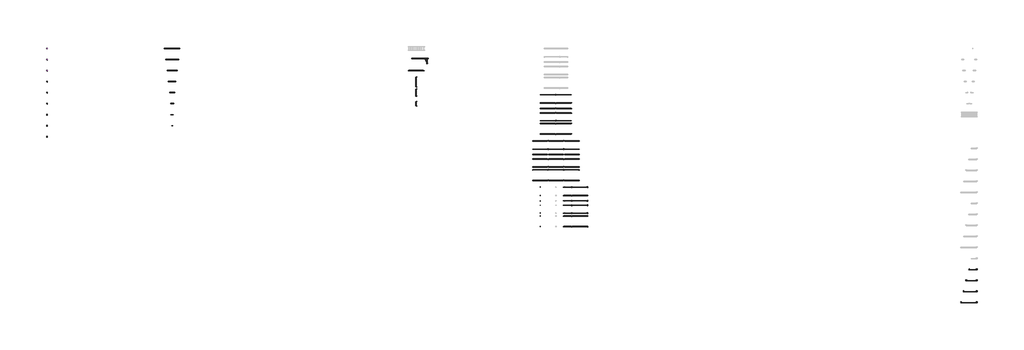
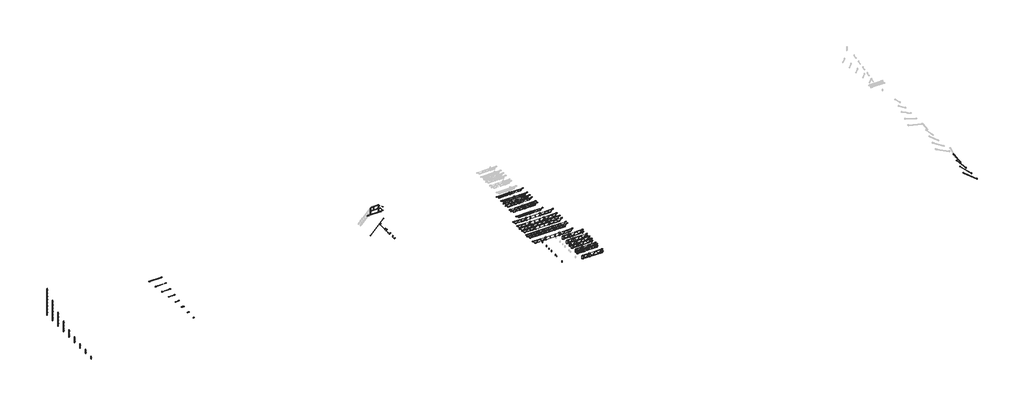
# One storey, part 1 of 2: 61 proxies.
"""IFC4 building model written with IfcOpenShell, lengths in millimetres."""

from ifc_helpers import new_model, si_unit, origin, place, context, project, spatial, transform, mapped, element, save
from components import generic_models_9ae7badf, generic_models_bc8bdfa8, generic_models_b39278bf, generic_models_16b3c78d, generic_models_86f9ce57, generic_models_1dade7e1, generic_models_76ee82b8, generic_models_0a93a7db, generic_models_1e0378dc, generic_models_099d6492, generic_models_34d79544, generic_models_03ab8a06, generic_models_fc53304d, generic_models_4928589d, generic_models_6867d717, generic_models_185ff827, generic_models_e073ca39, generic_models_849db72a, generic_models_a82b83a8, generic_models_1110d281, generic_models_9ba98fb6, generic_models_5db8f6cd, generic_models_267648cc, generic_models_ffb8613f, generic_models_e28a5294, generic_models_1a670a13, generic_models_91e35777, generic_models_8123577b, generic_models_a14d9769, generic_models_4baf35b3, generic_models_fa30573d, generic_models_defd56ff, generic_models_d6438b01, generic_models_5d8191d4, generic_models_ce839660, proxy_1200_2f35732d

model = new_model("IFC4")

# Units and contexts
model_context = context("Model", 3, world=origin())
ifc_project = project(units=[si_unit("LENGTHUNIT", "METRE", prefix="MILLI")], contexts=[model_context])

# Site, building, storey
site = spatial("IfcSite", under=ifc_project)
building = spatial("IfcBuilding", under=site)
storey = spatial("IfcBuildingStorey", under=building, Name="レベル 1", Elevation=500.0)

# Proxies
placement = place(None, origin())
generic_models_shape = generic_models_9ae7badf(model_context)
element("IfcBuildingElementProxy", 1, Name="AK_アルバトロスＡＫ支柱L=3600_軽 : AK_アルバトロスＡＫ支柱L=3600", ObjectType="AK_アルバトロスＡＫ支柱L=3600_軽 : AK_アルバトロスＡＫ支柱L=3600", at=placement, inside=storey, context=model_context, shape_type="MappedRepresentation", body=[
    mapped(generic_models_shape, transform((6859.9075357, 25132.706542, 500.0), x_axis=(1.0, 0.0, 0.0), y_axis=(0.0, 1.0, 0.0), z_axis=(0.0, 0.0, 1.0))),
])
generic_models_2_shape = generic_models_bc8bdfa8(model_context)
element("IfcBuildingElementProxy", 2, Name="AK_アルバトロスＡＫ連結ピン_軽 : AK_アルバトロスＡＫ連結ピン", ObjectType="AK_アルバトロスＡＫ連結ピン_軽 : AK_アルバトロスＡＫ連結ピン", at=placement, inside=storey, context=model_context, shape_type="MappedRepresentation", body=[
    mapped(generic_models_2_shape, transform((6859.9075357, 25132.706542, 4075.0), x_axis=(1.0, 0.0, 0.0), y_axis=(0.0, 1.0, 0.0), z_axis=(0.0, 0.0, 1.0))),
])
element("IfcBuildingElementProxy", 3, Name="AK_アルバトロスＡＫ連結ピン_軽 : AK_アルバトロスＡＫ連結ピン", ObjectType="AK_アルバトロスＡＫ連結ピン_軽 : AK_アルバトロスＡＫ連結ピン", at=placement, inside=storey, context=model_context, shape_type="MappedRepresentation", body=[
    mapped(generic_models_2_shape, transform((6859.9075357, 23872.706542, 3175.0), x_axis=(1.0, 0.0, 0.0), y_axis=(0.0, 1.0, 0.0), z_axis=(0.0, 0.0, 1.0))),
])
generic_models_3_shape = generic_models_b39278bf(model_context)
element("IfcBuildingElementProxy", 4, Name="AK_アルバトロスＡＫ支柱L=2700_軽 : AK_アルバトロスＡＫ支柱L=2700", ObjectType="AK_アルバトロスＡＫ支柱L=2700_軽 : AK_アルバトロスＡＫ支柱L=2700", at=placement, inside=storey, context=model_context, shape_type="MappedRepresentation", body=[
    mapped(generic_models_3_shape, transform((6859.9075357, 23872.706542, 500.0), x_axis=(1.0, 0.0, 0.0), y_axis=(0.0, 1.0, 0.0), z_axis=(0.0, 0.0, 1.0))),
])
generic_models_4_shape = generic_models_16b3c78d(model_context)
element("IfcBuildingElementProxy", 5, Name="AK_アルバトロスＡＫ支柱L=1800_軽 : AK_アルバトロスＡＫ支柱L=1800", ObjectType="AK_アルバトロスＡＫ支柱L=1800_軽 : AK_アルバトロスＡＫ支柱L=1800", at=placement, inside=storey, context=model_context, shape_type="MappedRepresentation", body=[
    mapped(generic_models_4_shape, transform((6859.9075357, 22612.706542, 500.0), x_axis=(1.0, 0.0, 0.0), y_axis=(0.0, 1.0, 0.0), z_axis=(0.0, 0.0, 1.0))),
])
element("IfcBuildingElementProxy", 6, Name="AK_アルバトロスＡＫ連結ピン_軽 : AK_アルバトロスＡＫ連結ピン", ObjectType="AK_アルバトロスＡＫ連結ピン_軽 : AK_アルバトロスＡＫ連結ピン", at=placement, inside=storey, context=model_context, shape_type="MappedRepresentation", body=[
    mapped(generic_models_2_shape, transform((6859.9075357, 22612.706542, 2275.0), x_axis=(1.0, 0.0, 0.0), y_axis=(0.0, 1.0, 0.0), z_axis=(0.0, 0.0, 1.0))),
])
element("IfcBuildingElementProxy", 7, Name="AK_アルバトロスＡＫ連結ピン_軽 : AK_アルバトロスＡＫ連結ピン", ObjectType="AK_アルバトロスＡＫ連結ピン_軽 : AK_アルバトロスＡＫ連結ピン", at=placement, inside=storey, context=model_context, shape_type="MappedRepresentation", body=[
    mapped(generic_models_2_shape, transform((6859.9075357, 21352.706542, 1825.0), x_axis=(1.0, 0.0, 0.0), y_axis=(0.0, 1.0, 0.0), z_axis=(0.0, 0.0, 1.0))),
])
generic_models_5_shape = generic_models_86f9ce57(model_context)
element("IfcBuildingElementProxy", 8, Name="AK_アルバトロスＡＫ支柱L=1350_軽 : AK_アルバトロスＡＫ支柱L=1350", ObjectType="AK_アルバトロスＡＫ支柱L=1350_軽 : AK_アルバトロスＡＫ支柱L=1350", at=placement, inside=storey, context=model_context, shape_type="MappedRepresentation", body=[
    mapped(generic_models_5_shape, transform((6859.9075357, 21352.706542, 500.0), x_axis=(1.0, 0.0, 0.0), y_axis=(0.0, 1.0, 0.0), z_axis=(0.0, 0.0, 1.0))),
])
generic_models_6_shape = generic_models_1dade7e1(model_context)
element("IfcBuildingElementProxy", 9, Name="AK_アルバトロスＡＫ支柱L=900_軽 : AK_アルバトロスＡＫ支柱L=900", ObjectType="AK_アルバトロスＡＫ支柱L=900_軽 : AK_アルバトロスＡＫ支柱L=900", at=placement, inside=storey, context=model_context, shape_type="MappedRepresentation", body=[
    mapped(generic_models_6_shape, transform((6859.9075357, 20092.706542, 500.0), x_axis=(1.0, 0.0, 0.0), y_axis=(0.0, 1.0, 0.0), z_axis=(0.0, 0.0, 1.0))),
])
element("IfcBuildingElementProxy", 10, Name="AK_アルバトロスＡＫ連結ピン_軽 : AK_アルバトロスＡＫ連結ピン", ObjectType="AK_アルバトロスＡＫ連結ピン_軽 : AK_アルバトロスＡＫ連結ピン", at=placement, inside=storey, context=model_context, shape_type="MappedRepresentation", body=[
    mapped(generic_models_2_shape, transform((6859.9075357, 20092.706542, 1375.0), x_axis=(1.0, 0.0, 0.0), y_axis=(0.0, 1.0, 0.0), z_axis=(0.0, 0.0, 1.0))),
])
element("IfcBuildingElementProxy", 11, Name="AK_アルバトロスＡＫ連結ピン_軽 : AK_アルバトロスＡＫ連結ピン", ObjectType="AK_アルバトロスＡＫ連結ピン_軽 : AK_アルバトロスＡＫ連結ピン", at=placement, inside=storey, context=model_context, shape_type="MappedRepresentation", body=[
    mapped(generic_models_2_shape, transform((6859.9075357, 18832.706542, 1150.0), x_axis=(1.0, 0.0, 0.0), y_axis=(0.0, 1.0, 0.0), z_axis=(0.0, 0.0, 1.0))),
])
generic_models_7_shape = generic_models_76ee82b8(model_context)
element("IfcBuildingElementProxy", 12, Name="AK_アルバトロスＡＫ支柱L=675_軽 : AK_アルバトロスＡＫ支柱L=675", ObjectType="AK_アルバトロスＡＫ支柱L=675_軽 : AK_アルバトロスＡＫ支柱L=675", at=placement, inside=storey, context=model_context, shape_type="MappedRepresentation", body=[
    mapped(generic_models_7_shape, transform((6859.9075357, 18832.706542, 500.0), x_axis=(1.0, 0.0, 0.0), y_axis=(0.0, 1.0, 0.0), z_axis=(0.0, 0.0, 1.0))),
])
generic_models_8_shape = generic_models_0a93a7db(model_context)
element("IfcBuildingElementProxy", 13, Name="AK_アルバトロスＡＫ支柱L=450_軽 : AK_アルバトロスＡＫ支柱L=450", ObjectType="AK_アルバトロスＡＫ支柱L=450_軽 : AK_アルバトロスＡＫ支柱L=450", at=placement, inside=storey, context=model_context, shape_type="MappedRepresentation", body=[
    mapped(generic_models_8_shape, transform((6859.9075357, 17572.706542, 500.0), x_axis=(1.0, 0.0, 0.0), y_axis=(0.0, 1.0, 0.0), z_axis=(0.0, 0.0, 1.0))),
])
generic_models_9_shape = generic_models_1e0378dc(model_context)
element("IfcBuildingElementProxy", 14, Name="AK_アルバトロスＡＫ連結ピン_軽 : AK_アルバトロスＡＫ連結ピン", ObjectType="AK_アルバトロスＡＫ連結ピン_軽 : AK_アルバトロスＡＫ連結ピン", at=placement, inside=storey, context=model_context, shape_type="MappedRepresentation", body=[
    mapped(generic_models_9_shape, transform((6859.9075357, 17572.706542, 925.0), x_axis=(1.0, 0.0, 0.0), y_axis=(0.0, 1.0, 0.0), z_axis=(0.0, 0.0, 1.0))),
])
generic_models_10_shape = generic_models_099d6492(model_context)
element("IfcBuildingElementProxy", 15, Name="AK_アルバトロスＡＫ布材L=1800_軽 : AK_アルバトロスＡＫ布材L=1800_軽", ObjectType="AK_アルバトロスＡＫ布材L=1800_軽 : AK_アルバトロスＡＫ布材L=1800_軽", at=placement, inside=storey, context=model_context, shape_type="MappedRepresentation", body=[
    mapped(generic_models_10_shape, transform((20254.9075357, 25132.706542, 500.0), x_axis=(1.0, 0.0, 0.0), y_axis=(0.0, 1.0, 0.0), z_axis=(0.0, 0.0, 1.0))),
])
generic_models_11_shape = generic_models_34d79544(model_context)
element("IfcBuildingElementProxy", 16, Name="AK_アルバトロスＡＫ布材L=1500_軽 : AK_アルバトロスＡＫ布材L=1500_軽", ObjectType="AK_アルバトロスＡＫ布材L=1500_軽 : AK_アルバトロスＡＫ布材L=1500_軽", at=placement, inside=storey, context=model_context, shape_type="MappedRepresentation", body=[
    mapped(generic_models_11_shape, transform((20404.9075383, 23872.706542, 500.0), x_axis=(1.0, 0.0, 0.0), y_axis=(0.0, 1.0, 0.0), z_axis=(0.0, 0.0, 1.0))),
])
generic_models_12_shape = generic_models_03ab8a06(model_context)
element("IfcBuildingElementProxy", 17, Name="AK_アルバトロスＡＫ布材L=1200_軽 : AK_アルバトロスＡＫ布材L=1200_軽", ObjectType="AK_アルバトロスＡＫ布材L=1200_軽 : AK_アルバトロスＡＫ布材L=1200_軽", at=placement, inside=storey, context=model_context, shape_type="MappedRepresentation", body=[
    mapped(generic_models_12_shape, transform((20554.9075159, 22612.706542, 500.0), x_axis=(1.0, 0.0, 0.0), y_axis=(0.0, 1.0, 0.0), z_axis=(0.0, 0.0, 1.0))),
])
generic_models_13_shape = generic_models_fc53304d(model_context)
element("IfcBuildingElementProxy", 18, Name="AK_アルバトロスＡＫ布材L=900_軽 : AK_アルバトロスＡＫ布材L=900_軽", ObjectType="AK_アルバトロスＡＫ布材L=900_軽 : AK_アルバトロスＡＫ布材L=900_軽", at=placement, inside=storey, context=model_context, shape_type="MappedRepresentation", body=[
    mapped(generic_models_13_shape, transform((20704.9075357, 21352.706542, 500.0), x_axis=(1.0, 0.0, 0.0), y_axis=(0.0, 1.0, 0.0), z_axis=(0.0, 0.0, 1.0))),
])
generic_models_14_shape = generic_models_4928589d(model_context)
element("IfcBuildingElementProxy", 19, Name="AK_アルバトロスＡＫ布材L=600_軽 : AK_アルバトロスＡＫ布材L=600_軽", ObjectType="AK_アルバトロスＡＫ布材L=600_軽 : AK_アルバトロスＡＫ布材L=600_軽", at=placement, inside=storey, context=model_context, shape_type="MappedRepresentation", body=[
    mapped(generic_models_14_shape, transform((20854.9075159, 20092.706542, 500.0), x_axis=(1.0, 0.0, 0.0), y_axis=(0.0, 1.0, 0.0), z_axis=(0.0, 0.0, 1.0))),
])
generic_models_15_shape = generic_models_6867d717(model_context)
element("IfcBuildingElementProxy", 20, Name="AK_アルバトロスＡＫ布材L=360_軽 : AK_アルバトロスＡＫ布材L=360_軽", ObjectType="AK_アルバトロスＡＫ布材L=360_軽 : AK_アルバトロスＡＫ布材L=360_軽", at=placement, inside=storey, context=model_context, shape_type="MappedRepresentation", body=[
    mapped(generic_models_15_shape, transform((20974.9075357, 18832.706542, 500.0), x_axis=(1.0, 0.0, 0.0), y_axis=(0.0, 1.0, 0.0), z_axis=(0.0, 0.0, 1.0))),
])
generic_models_16_shape = generic_models_185ff827(model_context)
element("IfcBuildingElementProxy", 21, Name="AK_アルバトロスＡＫ布材L=300_軽 : AK_アルバトロスＡＫ布材L=300_軽", ObjectType="AK_アルバトロスＡＫ布材L=300_軽 : AK_アルバトロスＡＫ布材L=300_軽", at=placement, inside=storey, context=model_context, shape_type="MappedRepresentation", body=[
    mapped(generic_models_16_shape, transform((21004.9075107, 17572.706542, 500.0), x_axis=(1.0, 0.0, 0.0), y_axis=(0.0, 1.0, 0.0), z_axis=(0.0, 0.0, 1.0))),
])
generic_models_17_shape = generic_models_e073ca39(model_context)
element("IfcBuildingElementProxy", 22, Name="AK_アルバトロスＡＫつなぎ材_軽 : AK_アルバトロスＡＫつなぎ材_軽", ObjectType="AK_アルバトロスＡＫつなぎ材_軽 : AK_アルバトロスＡＫつなぎ材_軽", at=placement, inside=storey, context=model_context, shape_type="MappedRepresentation", body=[
    mapped(generic_models_17_shape, transform((21073.4075306, 16312.706542, 500.0), x_axis=(1.0, 0.0, 0.0), y_axis=(0.0, 1.0, 0.0), z_axis=(0.0, 0.0, 1.0))),
])
generic_models_18_shape = generic_models_849db72a(model_context)
element("IfcBuildingElementProxy", 23, Name="アルバトロスＡＫ階段手摺_軽 : アルバトロスＡＫ階段手摺_軽", ObjectType="アルバトロスＡＫ階段手摺_軽 : アルバトロスＡＫ階段手摺_軽", at=placement, inside=storey, context=model_context, shape_type="MappedRepresentation", body=[
    mapped(generic_models_18_shape, transform((49937.3354172, 22612.706542, 500.0), x_axis=(1.0, 0.0, 0.0), y_axis=(0.0, 1.0, 0.0), z_axis=(0.0, 0.0, 1.0))),
])
generic_models_19_shape = generic_models_a82b83a8(model_context)
element("IfcBuildingElementProxy", 24, Name="アルバトロスＡＫ階段受け_軽 : アルバトロスＡＫ階段受けL=1200", ObjectType="アルバトロスＡＫ階段受け_軽 : アルバトロスＡＫ階段受けL=1200", at=placement, inside=storey, context=model_context, shape_type="MappedRepresentation", body=[
    mapped(generic_models_19_shape, transform((49095.5408691, 21906.4841611, 500.0), x_axis=(0.0, -1.0, 0.0), y_axis=(1.0, 0.0, 0.0), z_axis=(0.0, 0.0, 1.0))),
])
generic_models_20_shape = generic_models_1110d281(model_context)
element("IfcBuildingElementProxy", 25, Name="アルバトロスＡＫ階段受け_軽 : アルバトロスＡＫ階段受けL=900", ObjectType="アルバトロスＡＫ階段受け_軽 : アルバトロスＡＫ階段受けL=900", at=placement, inside=storey, context=model_context, shape_type="MappedRepresentation", body=[
    mapped(generic_models_20_shape, transform((49095.5408691, 20542.706542, 500.0), x_axis=(0.0, -1.0, 0.0), y_axis=(1.0, 0.0, 0.0), z_axis=(0.0, 0.0, 1.0))),
])
generic_models_21_shape = generic_models_9ba98fb6(model_context)
element("IfcBuildingElementProxy", 26, Name="アルバトロスＡＫ階段受け_軽 : アルバトロスＡＫ階段受けL=600", ObjectType="アルバトロスＡＫ階段受け_軽 : アルバトロスＡＫ階段受けL=600", at=placement, inside=storey, context=model_context, shape_type="MappedRepresentation", body=[
    mapped(generic_models_21_shape, transform((49095.5408691, 19132.706542, 500.0), x_axis=(0.0, -1.0, 0.0), y_axis=(1.0, 0.0, 0.0), z_axis=(0.0, 0.0, 1.0))),
])
generic_models_22_shape = generic_models_5db8f6cd(model_context)
element("IfcBuildingElementProxy", 27, Name="AK_アルバトロスＡＫ根がらみ支柱L=225_軽 : AK_アルバトロスＡＫ根がらみ支柱L=225_軽", ObjectType="AK_アルバトロスＡＫ根がらみ支柱L=225_軽 : AK_アルバトロスＡＫ根がらみ支柱L=225_軽", at=placement, inside=storey, context=model_context, shape_type="MappedRepresentation", body=[
    mapped(generic_models_22_shape, transform((6859.9075357, 15052.706542, 500.0), x_axis=(1.0, 0.0, 0.0), y_axis=(0.0, 1.0, 0.0), z_axis=(0.0, 0.0, 1.0))),
])
generic_models_23_shape = generic_models_267648cc(model_context)
element("IfcBuildingElementProxy", 28, Name="AK_アルバトロスＡＫ根がらみ支柱L=450（大和式ピン）_軽 : AK_アルバトロスＡＫ根がらみ支柱L=450（大和式ピン）_軽", ObjectType="AK_アルバトロスＡＫ根がらみ支柱L=450（大和式ピン）_軽 : AK_アルバトロスＡＫ根がらみ支柱L=450（大和式ピン）_軽", at=placement, inside=storey, context=model_context, shape_type="MappedRepresentation", body=[
    mapped(generic_models_23_shape, transform((6859.9075357, 16312.706542, 500.0), x_axis=(1.0, 0.0, 0.0), y_axis=(0.0, 1.0, 0.0), z_axis=(0.0, 0.0, 1.0))),
])
generic_models_24_shape = generic_models_ffb8613f(model_context)
element("IfcBuildingElementProxy", 29, Name="アルバトロスAK2スパンはりわく_軽 : アルバトロスAK2スパンはりわく_軽", ObjectType="アルバトロスAK2スパンはりわく_軽 : アルバトロスAK2スパンはりわく_軽", at=placement, inside=storey, context=model_context, shape_type="MappedRepresentation", body=[
    mapped(generic_models_24_shape, transform((63176.3356425, 19852.706542, 500.0), x_axis=(1.0, 0.0, 0.0), y_axis=(0.0, 1.0, 0.0), z_axis=(0.0, 0.0, 1.0))),
])
generic_models_25_shape = generic_models_e28a5294(model_context)
element("IfcBuildingElementProxy", 30, Name="アルバトロスAK3スパンはりわく_軽 : アルバトロスAK3スパンはりわく_軽", ObjectType="アルバトロスAK3スパンはりわく_軽 : アルバトロスAK3スパンはりわく_軽", at=placement, inside=storey, context=model_context, shape_type="MappedRepresentation", body=[
    mapped(generic_models_25_shape, transform((62261.8356425, 14572.706542, 500.0), x_axis=(1.0, 0.0, 0.0), y_axis=(0.0, 1.0, 0.0), z_axis=(0.0, 0.0, 1.0))),
])
generic_models_26_shape = generic_models_1a670a13(model_context)
element("IfcBuildingElementProxy", 31, Name="アルバトロスAK4スパン梁枠短ピン付_軽 : アルバトロスAK4スパン梁枠短ピン付_軽", ObjectType="アルバトロスAK4スパン梁枠短ピン付_軽 : アルバトロスAK4スパン梁枠短ピン付_軽", at=placement, inside=storey, context=model_context, shape_type="MappedRepresentation", body=[
    mapped(generic_models_26_shape, transform((61328.3356425, 7732.706542, 500.0), x_axis=(1.0, 0.0, 0.0), y_axis=(0.0, 1.0, 0.0), z_axis=(0.0, 0.0, 1.0))),
])
element("IfcBuildingElementProxy", 32, Name="アルバトロスAK4スパン梁枠短ピン付_軽 : アルバトロスAK4スパン梁枠短ピン付_軽", ObjectType="アルバトロスAK4スパン梁枠短ピン付_軽 : アルバトロスAK4スパン梁枠短ピン付_軽", at=placement, inside=storey, context=model_context, shape_type="MappedRepresentation", body=[
    mapped(generic_models_26_shape, transform((61328.3356425, 6322.706542, 500.0), x_axis=(1.0, 0.0, 0.0), y_axis=(0.0, 1.0, 0.0), z_axis=(0.0, 0.0, 1.0))),
])
element("IfcBuildingElementProxy", 33, Name="アルバトロスAK4スパン梁枠短ピン付_軽 : アルバトロスAK4スパン梁枠短ピン付_軽", ObjectType="アルバトロスAK4スパン梁枠短ピン付_軽 : アルバトロスAK4スパン梁枠短ピン付_軽", at=placement, inside=storey, context=model_context, shape_type="MappedRepresentation", body=[
    mapped(generic_models_26_shape, transform((61328.3356425, 4792.706542, 500.0), x_axis=(1.0, 0.0, 0.0), y_axis=(0.0, 1.0, 0.0), z_axis=(0.0, 0.0, 1.0))),
])
element("IfcBuildingElementProxy", 34, Name="アルバトロスAK4スパン梁枠短ピン付_軽 : アルバトロスAK4スパン梁枠短ピン付_軽", ObjectType="アルバトロスAK4スパン梁枠短ピン付_軽 : アルバトロスAK4スパン梁枠短ピン付_軽", at=placement, inside=storey, context=model_context, shape_type="MappedRepresentation", body=[
    mapped(generic_models_26_shape, transform((61328.3356425, 9292.706542, 500.0), x_axis=(1.0, 0.0, 0.0), y_axis=(0.0, 1.0, 0.0), z_axis=(0.0, 0.0, 1.0))),
])
generic_models_27_shape = generic_models_91e35777(model_context)
element("IfcBuildingElementProxy", 35, Name="AK_アルバトロスAK伸縮斜材 : H1800×L1200", ObjectType="AK_アルバトロスAK伸縮斜材 : H1800×L1200", at=placement, inside=storey, context=model_context, shape_type="MappedRepresentation", body=[
    mapped(generic_models_27_shape, transform((113074.6155155, -1397.293458, 0.0), x_axis=(1.0, 0.0, 0.0), y_axis=(0.0, 1.0, 0.0), z_axis=(0.0, 0.0, 1.0))),
])
generic_models_28_shape = generic_models_8123577b(model_context)
element("IfcBuildingElementProxy", 36, Name="AK_アルバトロスAK伸縮斜材 : H1800×L1500", ObjectType="AK_アルバトロスAK伸縮斜材 : H1800×L1500", at=placement, inside=storey, context=model_context, shape_type="MappedRepresentation", body=[
    mapped(generic_models_28_shape, transform((113074.6155155, -2657.293458, 0.0), x_axis=(1.0, 0.0, 0.0), y_axis=(0.0, 1.0, 0.0), z_axis=(0.0, 0.0, 1.0))),
])
generic_models_29_shape = generic_models_a14d9769(model_context)
element("IfcBuildingElementProxy", 37, Name="AK_アルバトロスAK伸縮斜材 : H1800×L1800", ObjectType="AK_アルバトロスAK伸縮斜材 : H1800×L1800", at=placement, inside=storey, context=model_context, shape_type="MappedRepresentation", body=[
    mapped(generic_models_29_shape, transform((113074.6155155, -3917.293458, 0.0), x_axis=(1.0, 0.0, 0.0), y_axis=(0.0, 1.0, 0.0), z_axis=(0.0, 0.0, 1.0))),
])
generic_models_30_shape = generic_models_4baf35b3(model_context)
element("IfcBuildingElementProxy", 38, Name="AK_アルバトロスAK伸縮斜材 : H1800×L0900", ObjectType="AK_アルバトロスAK伸縮斜材 : H1800×L0900", at=placement, inside=storey, context=model_context, shape_type="MappedRepresentation", body=[
    mapped(generic_models_30_shape, transform((113074.6155155, -137.293458, 0.0), x_axis=(1.0, 0.0, 0.0), y_axis=(0.0, 1.0, 0.0), z_axis=(0.0, 0.0, 1.0))),
])
element("IfcBuildingElementProxy", 39, Name="アルバトロスAK2スパンはりわく_軽 : アルバトロスAK2スパンはりわく_軽", ObjectType="アルバトロスAK2スパンはりわく_軽 : アルバトロスAK2スパンはりわく_軽", at=placement, inside=storey, context=model_context, shape_type="MappedRepresentation", body=[
    mapped(generic_models_24_shape, transform((63176.3356425, 18292.706542, 500.0), x_axis=(1.0, 0.0, 0.0), y_axis=(0.0, 1.0, 0.0), z_axis=(0.0, 0.0, 1.0))),
])
element("IfcBuildingElementProxy", 40, Name="アルバトロスAK2スパンはりわく_軽 : アルバトロスAK2スパンはりわく_軽", ObjectType="アルバトロスAK2スパンはりわく_軽 : アルバトロスAK2スパンはりわく_軽", at=placement, inside=storey, context=model_context, shape_type="MappedRepresentation", body=[
    mapped(generic_models_24_shape, transform((63176.3356425, 16882.706542, 500.0), x_axis=(1.0, 0.0, 0.0), y_axis=(0.0, 1.0, 0.0), z_axis=(0.0, 0.0, 1.0))),
])
element("IfcBuildingElementProxy", 41, Name="アルバトロスAK2スパンはりわく_軽 : アルバトロスAK2スパンはりわく_軽", ObjectType="アルバトロスAK2スパンはりわく_軽 : アルバトロスAK2スパンはりわく_軽", at=placement, inside=storey, context=model_context, shape_type="MappedRepresentation", body=[
    mapped(generic_models_24_shape, transform((63176.3356425, 15352.706542, 500.0), x_axis=(1.0, 0.0, 0.0), y_axis=(0.0, 1.0, 0.0), z_axis=(0.0, 0.0, 1.0))),
])
generic_models_31_shape = generic_models_fa30573d(model_context)
element("IfcBuildingElementProxy", 42, Name="アルバトロスAK2スパンはりわく_軽 : アルバトロスAK2スパンはりわく_軽", ObjectType="アルバトロスAK2スパンはりわく_軽 : アルバトロスAK2スパンはりわく_軽", at=placement, inside=storey, context=model_context, shape_type="MappedRepresentation", body=[
    mapped(generic_models_31_shape, transform((63176.3356425, 18892.706542, 500.0), x_axis=(1.0, 0.0, 0.0), y_axis=(0.0, 1.0, 0.0), z_axis=(0.0, 0.0, 1.0))),
])
element("IfcBuildingElementProxy", 43, Name="アルバトロスAK2スパンはりわく_軽 : アルバトロスAK2スパンはりわく_軽", ObjectType="アルバトロスAK2スパンはりわく_軽 : アルバトロスAK2スパンはりわく_軽", at=placement, inside=storey, context=model_context, shape_type="MappedRepresentation", body=[
    mapped(generic_models_31_shape, transform((63176.3356425, 17782.706542, 500.0), x_axis=(1.0, 0.0, 0.0), y_axis=(0.0, 1.0, 0.0), z_axis=(0.0, 0.0, 1.0))),
])
element("IfcBuildingElementProxy", 44, Name="アルバトロスAK2スパンはりわく_軽 : アルバトロスAK2スパンはりわく_軽", ObjectType="アルバトロスAK2スパンはりわく_軽 : アルバトロスAK2スパンはりわく_軽", at=placement, inside=storey, context=model_context, shape_type="MappedRepresentation", body=[
    mapped(generic_models_31_shape, transform((63176.3356425, 16552.706542, 500.0), x_axis=(1.0, 0.0, 0.0), y_axis=(0.0, 1.0, 0.0), z_axis=(0.0, 0.0, 1.0))),
])
element("IfcBuildingElementProxy", 45, Name="アルバトロスAK3スパンはりわく_軽 : アルバトロスAK3スパンはりわく_軽", ObjectType="アルバトロスAK3スパンはりわく_軽 : アルバトロスAK3スパンはりわく_軽", at=placement, inside=storey, context=model_context, shape_type="MappedRepresentation", body=[
    mapped(generic_models_25_shape, transform((62261.8356425, 13028.206542, 500.0), x_axis=(1.0, 0.0, 0.0), y_axis=(0.0, 1.0, 0.0), z_axis=(0.0, 0.0, 1.0))),
])
element("IfcBuildingElementProxy", 46, Name="アルバトロスAK3スパンはりわく_軽 : アルバトロスAK3スパンはりわく_軽", ObjectType="アルバトロスAK3スパンはりわく_軽 : アルバトロスAK3スパンはりわく_軽", at=placement, inside=storey, context=model_context, shape_type="MappedRepresentation", body=[
    mapped(generic_models_25_shape, transform((62261.8356425, 11602.706542, 500.0), x_axis=(1.0, 0.0, 0.0), y_axis=(0.0, 1.0, 0.0), z_axis=(0.0, 0.0, 1.0))),
])
element("IfcBuildingElementProxy", 47, Name="アルバトロスAK3スパンはりわく_軽 : アルバトロスAK3スパンはりわく_軽", ObjectType="アルバトロスAK3スパンはりわく_軽 : アルバトロスAK3スパンはりわく_軽", at=placement, inside=storey, context=model_context, shape_type="MappedRepresentation", body=[
    mapped(generic_models_25_shape, transform((62261.8356425, 10072.706542, 500.0), x_axis=(1.0, 0.0, 0.0), y_axis=(0.0, 1.0, 0.0), z_axis=(0.0, 0.0, 1.0))),
])
generic_models_32_shape = generic_models_defd56ff(model_context)
element("IfcBuildingElementProxy", 48, Name="アルバトロスAK3スパンはりわく_軽 : アルバトロスAK3スパンはりわく_軽", ObjectType="アルバトロスAK3スパンはりわく_軽 : アルバトロスAK3スパンはりわく_軽", at=placement, inside=storey, context=model_context, shape_type="MappedRepresentation", body=[
    mapped(generic_models_32_shape, transform((62261.8356425, 13628.206542, 500.0), x_axis=(1.0, 0.0, 0.0), y_axis=(0.0, 1.0, 0.0), z_axis=(0.0, 0.0, 1.0))),
])
element("IfcBuildingElementProxy", 49, Name="アルバトロスAK3スパンはりわく_軽 : アルバトロスAK3スパンはりわく_軽", ObjectType="アルバトロスAK3スパンはりわく_軽 : アルバトロスAK3スパンはりわく_軽", at=placement, inside=storey, context=model_context, shape_type="MappedRepresentation", body=[
    mapped(generic_models_32_shape, transform((62261.8356425, 12502.706542, 500.0), x_axis=(1.0, 0.0, 0.0), y_axis=(0.0, 1.0, 0.0), z_axis=(0.0, 0.0, 1.0))),
])
element("IfcBuildingElementProxy", 50, Name="アルバトロスAK3スパンはりわく_軽 : アルバトロスAK3スパンはりわく_軽", ObjectType="アルバトロスAK3スパンはりわく_軽 : アルバトロスAK3スパンはりわく_軽", at=placement, inside=storey, context=model_context, shape_type="MappedRepresentation", body=[
    mapped(generic_models_32_shape, transform((62261.8356425, 11272.706542, 500.0), x_axis=(1.0, 0.0, 0.0), y_axis=(0.0, 1.0, 0.0), z_axis=(0.0, 0.0, 1.0))),
])
generic_models_33_shape = generic_models_d6438b01(model_context)
element("IfcBuildingElementProxy", 51, Name="梁枠部品ピン_軽 : 梁枠部品ピン_軽", ObjectType="梁枠部品ピン_軽 : 梁枠部品ピン_軽", at=placement, inside=storey, context=model_context, shape_type="MappedRepresentation", body=[
    mapped(generic_models_33_shape, transform((63205.3356425, 8332.706542, 500.0), x_axis=(1.0, 0.0, 0.0), y_axis=(0.0, 1.0, 0.0), z_axis=(0.0, 0.0, 1.0))),
])
element("IfcBuildingElementProxy", 52, Name="梁枠部品ピン_軽 : 梁枠部品ピン_軽", ObjectType="梁枠部品ピン_軽 : 梁枠部品ピン_軽", at=placement, inside=storey, context=model_context, shape_type="MappedRepresentation", body=[
    mapped(generic_models_33_shape, transform((63205.3356425, 7222.706542, 500.0), x_axis=(1.0, 0.0, 0.0), y_axis=(0.0, 1.0, 0.0), z_axis=(0.0, 0.0, 1.0))),
])
element("IfcBuildingElementProxy", 53, Name="梁枠部品ピン_軽 : 梁枠部品ピン_軽", ObjectType="梁枠部品ピン_軽 : 梁枠部品ピン_軽", at=placement, inside=storey, context=model_context, shape_type="MappedRepresentation", body=[
    mapped(generic_models_33_shape, transform((63205.3356425, 5992.706542, 500.0), x_axis=(1.0, 0.0, 0.0), y_axis=(0.0, 1.0, 0.0), z_axis=(0.0, 0.0, 1.0))),
])
generic_models_34_shape = generic_models_5d8191d4(model_context)
element("IfcBuildingElementProxy", 54, Name="アルバトロスAK4スパン梁枠短ピン付_軽 : アルバトロスAK4スパン梁枠短ピン付_軽", ObjectType="アルバトロスAK4スパン梁枠短ピン付_軽 : アルバトロスAK4スパン梁枠短ピン付_軽", at=placement, inside=storey, context=model_context, shape_type="MappedRepresentation", body=[
    mapped(generic_models_34_shape, transform((61328.3356425, 8332.706542, 500.0), x_axis=(1.0, 0.0, 0.0), y_axis=(0.0, 1.0, 0.0), z_axis=(0.0, 0.0, 1.0))),
])
element("IfcBuildingElementProxy", 55, Name="アルバトロスAK4スパン梁枠短ピン付_軽 : アルバトロスAK4スパン梁枠短ピン付_軽", ObjectType="アルバトロスAK4スパン梁枠短ピン付_軽 : アルバトロスAK4スパン梁枠短ピン付_軽", at=placement, inside=storey, context=model_context, shape_type="MappedRepresentation", body=[
    mapped(generic_models_34_shape, transform((61328.3356425, 7222.706542, 500.0), x_axis=(1.0, 0.0, 0.0), y_axis=(0.0, 1.0, 0.0), z_axis=(0.0, 0.0, 1.0))),
])
element("IfcBuildingElementProxy", 56, Name="アルバトロスAK4スパン梁枠短ピン付_軽 : アルバトロスAK4スパン梁枠短ピン付_軽", ObjectType="アルバトロスAK4スパン梁枠短ピン付_軽 : アルバトロスAK4スパン梁枠短ピン付_軽", at=placement, inside=storey, context=model_context, shape_type="MappedRepresentation", body=[
    mapped(generic_models_34_shape, transform((61328.3356425, 5992.706542, 500.0), x_axis=(1.0, 0.0, 0.0), y_axis=(0.0, 1.0, 0.0), z_axis=(0.0, 0.0, 1.0))),
])
generic_models_35_shape = generic_models_ce839660(model_context)
element("IfcBuildingElementProxy", 57, Name="梁枠部品ピン_軽 : 梁枠部品ピン_軽", ObjectType="梁枠部品ピン_軽 : 梁枠部品ピン_軽", at=placement, inside=storey, context=model_context, shape_type="MappedRepresentation", body=[
    mapped(generic_models_35_shape, transform((63205.3356425, 7732.706542, 500.0), x_axis=(1.0, 0.0, 0.0), y_axis=(0.0, 1.0, 0.0), z_axis=(0.0, 0.0, 1.0))),
])
element("IfcBuildingElementProxy", 58, Name="梁枠部品ピン_軽 : 梁枠部品ピン_軽", ObjectType="梁枠部品ピン_軽 : 梁枠部品ピン_軽", at=placement, inside=storey, context=model_context, shape_type="MappedRepresentation", body=[
    mapped(generic_models_35_shape, transform((63205.3356425, 6322.706542, 500.0), x_axis=(1.0, 0.0, 0.0), y_axis=(0.0, 1.0, 0.0), z_axis=(0.0, 0.0, 1.0))),
])
element("IfcBuildingElementProxy", 59, Name="梁枠部品ピン_軽 : 梁枠部品ピン_軽", ObjectType="梁枠部品ピン_軽 : 梁枠部品ピン_軽", at=placement, inside=storey, context=model_context, shape_type="MappedRepresentation", body=[
    mapped(generic_models_35_shape, transform((63205.3356425, 4792.706542, 500.0), x_axis=(1.0, 0.0, 0.0), y_axis=(0.0, 1.0, 0.0), z_axis=(0.0, 0.0, 1.0))),
])
element("IfcBuildingElementProxy", 60, Name="梁枠部品ピン_軽 : 梁枠部品ピン_軽", ObjectType="梁枠部品ピン_軽 : 梁枠部品ピン_軽", at=placement, inside=storey, context=model_context, shape_type="MappedRepresentation", body=[
    mapped(generic_models_35_shape, transform((63205.3356425, 9292.706542, 500.0), x_axis=(1.0, 0.0, 0.0), y_axis=(0.0, 1.0, 0.0), z_axis=(0.0, 0.0, 1.0))),
])
proxy_1200_shape = proxy_1200_2f35732d(model_context)
element("IfcBuildingElementProxy", 61, Name="AK_アルミ階段開口部手摺枠_軽 : 1200", ObjectType="AK_アルミ階段開口部手摺枠_軽 : 1200", at=placement, inside=storey, context=model_context, shape_type="MappedRepresentation", body=[
    mapped(proxy_1200_shape, transform((49454.9075357, 23862.706542, 500.0), x_axis=(1.0, 0.0, 0.0), y_axis=(0.0, 1.0, 0.0), z_axis=(0.0, 0.0, 1.0))),
])

save(model, "model.ifc")
